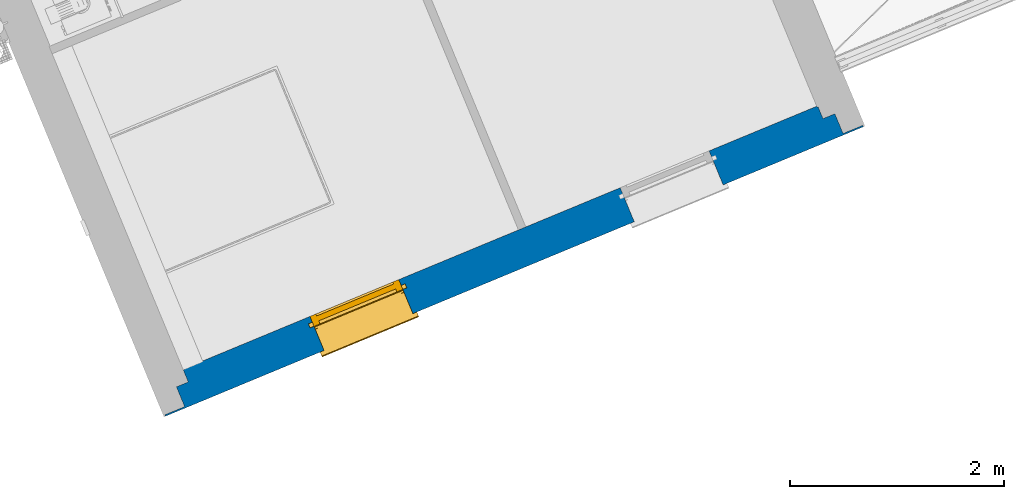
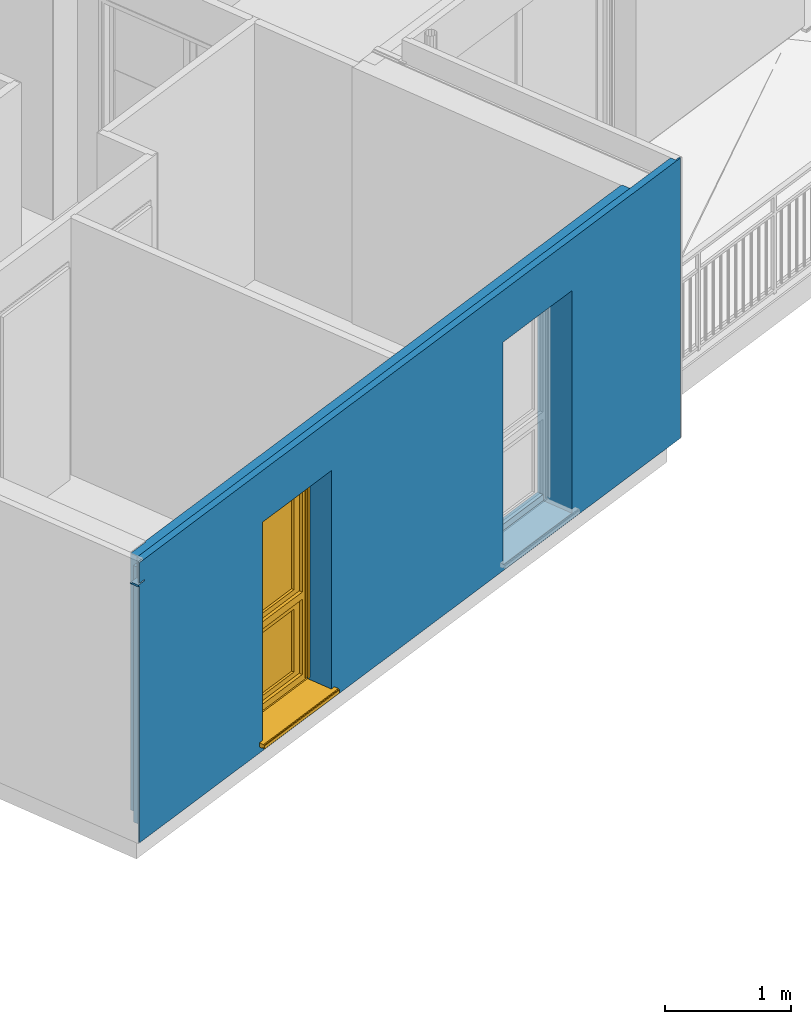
# One storey, part 10 of 91: 1 wall, 1 window, 2 openings.
"""IFC2X3 building model written with IfcOpenShell, lengths in metres."""

from ifc_helpers import new_model, entity, si_unit, converted_unit, derived_unit, money_unit, direction, frame, origin_with_axes, place, context, subcontext, project, spatial, open_shell, faceted_brep, surface_model, source, transform, mapped, material, material_list, type_object, element, fill, save


model = new_model("IFC2X3")

# Units and contexts
model_context = context("Model", 3, precision=1e-05, world=origin_with_axes(), true_north=direction((0.0, 1.0)))
body_context = subcontext(model_context, "Body", "Model", "MODEL_VIEW")
ifc_project = project(units=[si_unit("LENGTHUNIT", "METRE"), si_unit("AREAUNIT", "SQUARE_METRE"), si_unit("VOLUMEUNIT", "CUBIC_METRE"), converted_unit("PLANEANGLEUNIT", "DEGREE", entity("IfcPlaneAngleMeasure", 0.0174532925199), si_unit("PLANEANGLEUNIT", "RADIAN"), dimensions=[0, 0, 0, 0, 0, 0, 0]), si_unit("SOLIDANGLEUNIT", "STERADIAN"), money_unit("EUR"), converted_unit("TIMEUNIT", "Year", entity("IfcTimeMeasure", 31556926.0), si_unit("TIMEUNIT", "SECOND"), dimensions=[0, 0, 1, 0, 0, 0, 0]), si_unit("MASSUNIT", "GRAM", prefix="KILO"), si_unit("THERMODYNAMICTEMPERATUREUNIT", "DEGREE_CELSIUS"), si_unit("LUMINOUSINTENSITYUNIT", "LUMEN"), si_unit("ENERGYUNIT", "JOULE", prefix="MEGA"), derived_unit("THERMALCONDUCTANCEUNIT", [(si_unit("POWERUNIT", "WATT"), 1), (si_unit("LENGTHUNIT", "METRE"), -1), (si_unit("THERMODYNAMICTEMPERATUREUNIT", "KELVIN"), -1)]), derived_unit("SPECIFICHEATCAPACITYUNIT", [(si_unit("ENERGYUNIT", "JOULE"), 1), (si_unit("MASSUNIT", "GRAM", prefix="KILO"), -1), (si_unit("THERMODYNAMICTEMPERATUREUNIT", "KELVIN"), -1)]), derived_unit("MASSDENSITYUNIT", [(si_unit("MASSUNIT", "GRAM", prefix="KILO"), 1), (si_unit("VOLUMEUNIT", "CUBIC_METRE"), -1)])], contexts=[model_context])

# Site, building, storey
site_placement = place(None, origin_with_axes())
site = spatial("IfcSite", under=ifc_project, at=site_placement, Name="Site", CompositionType="ELEMENT")
building_placement = place(site_placement, origin_with_axes())
building = spatial("IfcBuilding", under=site, at=building_placement, Name="Bâtiment", CompositionType="ELEMENT")
storey_placement = place(building_placement, frame((0.0, 0.0, 5.44), z_axis=(0.0, 0.0, 1.0), x_axis=(1.0, 0.0, 0.0)))
storey = spatial("IfcBuildingStorey", under=building, at=storey_placement, Name="R+2", CompositionType="ELEMENT", Elevation=5.44)

# Wall, openings, window
ifc_material_1 = material(Name="Finition int - Plaque de plâtre")
ifc_material_2 = material(Name="Isolation - Polystyrène extrudé")
ifc_material_3 = material(Name="Bloc ELITHERM")
ifc_material_4 = material(Name="Mortier")
ifc_material_5 = material(Name="Béton cellulaire")
ifc_material_6 = material(Name="Finition ext - Crépis")
ifc_material_list = material_list([ifc_material_1, ifc_material_2, ifc_material_3, ifc_material_4, ifc_material_5, ifc_material_6])
wall_type = type_object("IfcWallType", Name="Mur ALKERN + planelle 23 345 x 2720", PredefinedType="USERDEFINED")
wall_placement = place(storey_placement, frame((-20.1547284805, -28.2349360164, 0.0), z_axis=(0.0, 0.0, 1.0), x_axis=(0.923701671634, 0.383112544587, 0.0)))
wall = element("IfcWall", 1, at=wall_placement, inside=storey, type_object=wall_type, material=ifc_material_list, Name="Mue bloc ALKERN isolé", ObjectType="SOLIDWALL", context=body_context, shape_type="Brep", body=[
    faceted_brep([(0.53500001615, 0.335000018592, 2.3), (0.344999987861, 0.335000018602, 2.3), (0.344999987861, 0.334999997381, 0.0), (6.75719491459, 0.334999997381, 0.0), (6.75719491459, 0.334999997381, 2.49000000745), (0.53500001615, 0.335000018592, 2.49000000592), (1.6219994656, 0.335000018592, 2.22), (1.6219994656, 0.334999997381, 2.4), (2.5219994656, 0.334999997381, 2.4), (2.5219994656, 0.335000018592, 2.22), (2.5219994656, 0.335000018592, 0.12), (1.6219994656, 0.335000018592, 0.12), (4.76579728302, 0.335000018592, 2.22), (4.76579728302, 0.334999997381, 2.4), (5.66579728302, 0.334999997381, 2.4), (5.66579728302, 0.335000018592, 2.22), (5.66579728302, 0.335000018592, 0.12), (4.76579728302, 0.335000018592, 0.12), (0.535000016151, 0.344999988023, 2.3), (0.344999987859, 0.344999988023, 2.3), (0.344999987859, 0.344999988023, 0.0), (6.75719491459, 0.344999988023, 0.0), (6.75719491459, 0.344999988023, 2.49000000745), (0.535000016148, 0.344999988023, 2.49000000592), (1.6219994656, 0.344999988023, 2.22), (1.6219994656, 0.344999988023, 2.4), (1.6219994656, 0.344999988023, 0.12), (2.5219994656, 0.344999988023, 2.4), (2.5219994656, 0.344999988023, 2.22), (2.5219994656, 0.344999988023, 0.12), (4.76579728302, 0.344999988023, 2.22), (4.76579728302, 0.344999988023, 2.4), (4.76579728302, 0.344999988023, 0.12), (5.66579728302, 0.344999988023, 2.4), (5.66579728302, 0.344999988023, 2.22), (5.66579728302, 0.344999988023, 0.12)], [[[0, 1, 2, 3, 4, 5], [6, 7, 8, 9, 10, 11], [12, 13, 14, 15, 16, 17]], [[1, 0, 18, 19]], [[1, 19, 20, 2]], [[3, 2, 20, 21]], [[21, 22, 4, 3]], [[23, 5, 4, 22]], [[0, 5, 23, 18]], [[24, 25, 7, 6, 11, 26]], [[25, 27, 8, 7]], [[9, 8, 27, 28, 29, 10]], [[26, 11, 10, 29]], [[30, 31, 13, 12, 17, 32]], [[14, 13, 31, 33]], [[15, 14, 33, 34, 35, 16]], [[16, 35, 32, 17]], [[18, 23, 22, 21, 20, 19], [25, 24, 26, 29, 28, 27], [31, 30, 32, 35, 34, 33]]]),
    faceted_brep([(5.66579728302, 0.286, 0.12), (5.66579728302, 0.286, 0.06), (5.66579728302, 0.214999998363, 0.06), (5.66579728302, 0.214999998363, 0.12), (5.66579728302, 0.215, 2.22), (5.66579728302, 0.215, 2.4), (5.66579728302, 0.334999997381, 2.4), (5.66579728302, 0.334999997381, 2.22), (5.66579728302, 0.334999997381, 0.12), (4.76579728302, 0.286, 0.12), (4.76579728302, 0.286, 0.06), (4.76579728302, 0.214999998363, 0.06), (6.76719490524, 0.214999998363, 2.49000000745), (0.335000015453, 0.214999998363, 2.49), (0.335000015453, 0.214999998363, 0.0), (6.76719490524, 0.214999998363, 0.0), (2.5219994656, 0.215, 2.4), (2.5219994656, 0.215, 2.22), (2.5219994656, 0.214999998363, 0.12), (2.5219994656, 0.214999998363, 0.06), (1.6219994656, 0.214999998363, 0.06), (1.6219994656, 0.214999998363, 0.12), (1.6219994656, 0.215, 2.22), (1.6219994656, 0.215, 2.4), (4.76579728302, 0.214999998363, 0.12), (4.76579728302, 0.215, 2.22), (4.76579728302, 0.215, 2.4), (4.76579728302, 0.334999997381, 2.4), (6.76719490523, 0.334999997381, 0.0), (0.335000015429, 0.334999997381, 0.0), (0.335000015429, 0.334999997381, 2.49), (6.76719490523, 0.334999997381, 2.49000000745), (2.5219994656, 0.334999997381, 0.12), (2.5219994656, 0.334999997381, 2.22), (2.5219994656, 0.334999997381, 2.4), (1.6219994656, 0.334999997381, 2.4), (1.6219994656, 0.334999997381, 2.22), (1.6219994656, 0.334999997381, 0.12), (4.76579728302, 0.334999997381, 2.22), (4.76579728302, 0.334999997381, 0.12), (2.5219994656, 0.286, 0.12), (2.5219994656, 0.286, 0.06), (1.6219994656, 0.286, 0.06), (1.6219994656, 0.286, 0.12)], [[[0, 1, 2, 3, 4, 5, 6, 7, 8]], [[0, 9, 10, 1]], [[11, 2, 1, 10]], [[12, 13, 14, 15], [16, 17, 18, 19, 20, 21, 22, 23], [11, 24, 25, 26, 5, 4, 3, 2]], [[26, 27, 6, 5]], [[28, 29, 30, 31], [32, 33, 34, 35, 36, 37], [8, 7, 6, 27, 38, 39]], [[9, 0, 8, 39]], [[24, 11, 10, 9, 39, 38, 27, 26, 25]], [[31, 30, 13, 12]], [[29, 14, 13, 30]], [[15, 14, 29, 28]], [[28, 31, 12, 15]], [[34, 33, 32, 40, 41, 19, 18, 17, 16]], [[20, 19, 41, 42]], [[35, 23, 22, 21, 20, 42, 43, 37, 36]], [[23, 35, 34, 16]], [[43, 40, 32, 37]], [[40, 43, 42, 41]]]),
    faceted_brep([(5.66579728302, 0.215, 0.12), (5.66579728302, 0.215, 0.06), (5.66579728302, 0.015, 0.06), (5.66579728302, 0.015, 0.12), (5.66579728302, 0.015, 2.22), (5.66579728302, 0.215, 2.22), (0.214999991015, 0.215, 0.0), (0.214999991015, 0.215, 2.49), (6.88719490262, 0.215, 2.49000000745), (6.88719490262, 0.215, 0.0), (2.5219994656, 0.215, 0.06), (2.5219994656, 0.215, 0.12), (2.5219994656, 0.215, 2.22), (1.6219994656, 0.215, 2.22), (1.6219994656, 0.215, 0.12), (1.6219994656, 0.215, 0.06), (4.76579728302, 0.215, 2.22), (4.76579728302, 0.215, 0.12), (4.76579728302, 0.215, 0.06), (4.76579728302, 0.015, 0.06), (0.214999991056, 0.015, 2.49), (0.214999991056, 0.015, 0.0), (6.88719490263, 0.015, 0.0), (6.88719490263, 0.015, 2.49000000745), (1.6219994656, 0.015, 0.06), (1.6219994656, 0.015, 0.12), (1.6219994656, 0.015, 2.22), (2.5219994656, 0.015, 2.22), (2.5219994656, 0.015, 0.12), (2.5219994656, 0.015, 0.06), (4.76579728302, 0.015, 0.12), (4.76579728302, 0.015, 2.22), (0.214999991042, 0.0829999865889, 2.49), (6.88719490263, 0.0829999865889, 2.49000000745)], [[[0, 1, 2, 3, 4, 5]], [[6, 7, 8, 9], [10, 11, 12, 13, 14, 15], [1, 0, 5, 16, 17, 18]], [[19, 2, 1, 18]], [[20, 21, 22, 23], [24, 25, 26, 27, 28, 29], [19, 30, 31, 4, 3, 2]], [[31, 16, 5, 4]], [[7, 6, 21, 20, 32]], [[7, 32, 33, 8]], [[9, 8, 33, 23, 22]], [[21, 6, 9, 22]], [[11, 10, 29, 28, 27, 12]], [[12, 27, 26, 13]], [[25, 24, 15, 14, 13, 26]], [[10, 15, 24, 29]], [[30, 19, 18, 17, 16, 31]], [[32, 20, 23, 33]]]),
    faceted_brep([(7.01919490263, 0.015, 2.49), (7.01919490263, 0.015, 2.5), (1.60902011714e-08, 0.015, 2.5), (1.60902011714e-08, 0.015, 2.49), (7.01919490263, 0.083, 2.5), (7.01919490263, 0.083, 2.49), (1.60762709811e-08, 0.083, 2.5), (1.60762709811e-08, 0.083, 2.49)], [[[0, 1, 2, 3]], [[4, 1, 0, 5]], [[1, 4, 6, 2]], [[7, 3, 2, 6]], [[5, 0, 3, 7]], [[4, 5, 7, 6]]]),
    faceted_brep([(0.0630000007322, 0.0630000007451, 2.72), (0.063000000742, 0.015, 2.72), (7.03919490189, 0.015, 2.72), (7.03919490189, 0.0630000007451, 2.72), (0.063000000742, 0.015, 2.5200000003), (0.0630000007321, 0.0630000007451, 2.5200000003), (0.0829999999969, 0.015, 2.52), (0.0829999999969, 0.015, 2.51), (0.0149999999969, 0.015, 2.51), (0.0, 0.015, 2.50999999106), (1.60902011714e-08, 0.015, 2.5000000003), (7.03919490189, 0.015, 2.5000000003), (7.03919490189, 0.0630000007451, 2.5000000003), (1.608036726e-08, 0.0630000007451, 2.5000000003), (0.0, 0.0630000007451, 2.50999999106), (0.0149999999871, 0.0630000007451, 2.51), (0.0829999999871, 0.0630000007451, 2.51), (0.0829999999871, 0.0630000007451, 2.52)], [[[0, 1, 2, 3]], [[4, 1, 0, 5]], [[1, 4, 6, 7, 8, 9, 10, 11, 2]], [[3, 2, 11, 12]], [[5, 0, 3, 12, 13, 14, 15, 16, 17]], [[4, 5, 17, 6]], [[7, 6, 17, 16]], [[8, 7, 16, 15]], [[8, 15, 14, 9]], [[9, 14, 13, 10]], [[12, 11, 10, 13]]]),
    faceted_brep([(5.66579728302, 0.0149999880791, 0.12), (5.66579728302, 1.19209389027e-08, 0.12), (5.66579728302, 1.19209389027e-08, 2.22), (5.66579728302, 0.0149999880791, 2.22), (5.66579728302, 1.19209389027e-08, 0.06), (5.66579728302, 0.0149999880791, 0.06), (0.0150000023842, 1.19209389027e-08, 0.0), (7.08719491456, 0.0, 0.0), (7.08719491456, 0.0, 2.72), (0.0150000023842, 1.19209389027e-08, 2.72), (0.0150000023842, 1.19209389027e-08, 2.52), (0.083, 1.19209389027e-08, 2.52), (0.083, 1.19209389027e-08, 2.51), (0.0, 1.19209389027e-08, 2.50999999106), (0.0, 1.19209389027e-08, 2.49), (0.0150000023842, 1.19209389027e-08, 2.49), (1.6219994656, 1.19209389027e-08, 0.06), (1.6219994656, 0.0, 0.12), (1.6219994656, 0.0, 2.22), (2.5219994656, 0.0, 2.22), (2.5219994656, 0.0, 0.12), (2.5219994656, 1.19209389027e-08, 0.06), (4.76579728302, 1.19209424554e-08, 0.06), (4.76579728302, 1.19209389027e-08, 0.12), (4.76579728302, 1.19209424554e-08, 2.22), (4.76579728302, 0.0149999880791, 2.22), (0.0, 0.0149999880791, 2.50999999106), (0.0829999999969, 0.0149999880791, 2.51), (0.0829999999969, 0.0149999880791, 2.52), (0.0150000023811, 0.0149999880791, 2.52), (0.0150000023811, 0.0149999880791, 2.72), (7.08719491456, 0.0149999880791, 2.72), (7.08719491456, 0.0149999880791, 0.0), (0.0150000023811, 0.0149999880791, 0.0), (0.0150000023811, 0.0149999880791, 2.49), (0.0, 0.0149999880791, 2.49), (2.5219994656, 0.0149999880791, 0.06), (2.5219994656, 0.0149999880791, 0.12), (2.5219994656, 0.0149999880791, 2.22), (1.6219994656, 0.0149999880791, 2.22), (1.6219994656, 0.0149999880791, 0.12), (1.6219994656, 0.0149999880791, 0.06), (4.76579728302, 0.0149999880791, 0.12), (4.76579728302, 0.0149999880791, 0.06)], [[[0, 1, 2, 3]], [[4, 1, 0, 5]], [[6, 7, 8, 9, 10, 11, 12, 13, 14, 15], [16, 17, 18, 19, 20, 21], [22, 23, 24, 2, 1, 4]], [[24, 25, 3, 2]], [[26, 27, 28, 29, 30, 31, 32, 33, 34, 35], [36, 37, 38, 39, 40, 41], [5, 0, 3, 25, 42, 43]], [[22, 4, 5, 43]], [[7, 6, 33, 32]], [[32, 31, 8, 7]], [[31, 30, 9, 8]], [[29, 10, 9, 30]], [[11, 10, 29, 28]], [[27, 12, 11, 28]], [[13, 12, 27, 26]], [[14, 13, 26, 35]], [[34, 15, 14, 35]], [[33, 6, 15, 34]], [[16, 41, 40, 17]], [[39, 18, 17, 40]], [[38, 19, 18, 39]], [[19, 38, 37, 20]], [[37, 36, 21, 20]], [[36, 41, 16, 21]], [[42, 23, 22, 43]], [[23, 42, 25, 24]]]),
])
opening_1_placement = place(wall_placement, frame((2.0719994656, 0.0, 0.12), z_axis=(0.0, 0.0, 1.0), x_axis=(1.0, 0.0, 0.0)))
opening_1 = element("IfcOpeningElement", 2, at=opening_1_placement, cuts=wall, Name="MEN 90", context=body_context, shape_type="Brep", body=[
    faceted_brep([(-0.45, 0.834999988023, 0.0), (0.45, 0.834999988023, 0.0), (0.45, 0.245, 0.0), (-0.45, 0.245, 0.0), (-0.45, 0.834999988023, 2.1), (0.45, 0.834999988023, 2.1), (0.45, 0.245, 2.1), (-0.45, 0.245, 2.1)], [[[0, 1, 2, 3]], [[0, 4, 5, 1]], [[1, 5, 6, 2]], [[3, 2, 6, 7]], [[4, 0, 3, 7]], [[5, 4, 7, 6]]]),
    faceted_brep([(-0.45, -0.344999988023, 0.0), (-0.45, -0.344999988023, 2.1), (-0.45, 0.245, 2.1), (-0.45, 0.245, 0.0), (0.45, -0.344999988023, 0.0), (0.45, -0.344999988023, 2.1), (0.45, 0.245, 2.1), (0.45, 0.245, 0.0)], [[[0, 1, 2, 3]], [[0, 4, 5, 1]], [[1, 5, 6, 2]], [[3, 2, 6, 7]], [[4, 0, 3, 7]], [[5, 4, 7, 6]]]),
    faceted_brep([(-0.45, -0.344999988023, 0.0), (-0.45, -0.344999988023, 2.1), (-0.45, 0.245, 2.1), (-0.45, 0.245, 0.0), (0.45, -0.344999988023, 0.0), (0.45, -0.344999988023, 2.1), (0.45, 0.245, 2.1), (0.45, 0.245, 0.0)], [[[0, 1, 2, 3]], [[0, 4, 5, 1]], [[1, 5, 6, 2]], [[3, 2, 6, 7]], [[4, 0, 3, 7]], [[5, 4, 7, 6]]]),
    faceted_brep([(-0.45, 0.804999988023, 2.1), (0.45, 0.804999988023, 2.1), (0.45, 0.215, 2.1), (-0.45, 0.215, 2.1), (-0.45, 0.804999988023, 2.28), (0.45, 0.804999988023, 2.28), (0.45, 0.215, 2.28), (-0.45, 0.215, 2.28)], [[[0, 1, 2, 3]], [[0, 4, 5, 1]], [[1, 5, 6, 2]], [[3, 2, 6, 7]], [[4, 0, 3, 7]], [[5, 4, 7, 6]]]),
    faceted_brep([(-0.45, -0.303999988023, 0.0), (0.45, -0.303999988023, 0.0), (0.45, 0.286, 0.0), (-0.45, 0.286, 0.0), (-0.45, -0.303999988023, -0.06), (0.45, -0.303999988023, -0.06), (0.45, 0.286, -0.06), (-0.45, 0.286, -0.06)], [[[0, 1, 2, 3]], [[0, 4, 5, 1]], [[1, 5, 6, 2]], [[3, 2, 6, 7]], [[4, 0, 3, 7]], [[5, 4, 7, 6]]]),
])
opening_2_placement = place(wall_placement, frame((5.21579728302, 0.0, 0.12), z_axis=(0.0, 0.0, 1.0), x_axis=(1.0, 0.0, 0.0)))
element("IfcOpeningElement", 3, at=opening_2_placement, cuts=wall, Name="MEN 91", context=body_context, shape_type="Brep", body=[
    faceted_brep([(0.45, 0.245, 0.0), (-0.45, 0.245, 0.0), (-0.45, 0.834999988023, 0.0), (0.45, 0.834999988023, 0.0), (0.45, 0.245, 2.1), (-0.45, 0.245, 2.1), (-0.45, 0.834999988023, 2.1), (0.45, 0.834999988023, 2.1)], [[[0, 1, 2, 3]], [[0, 4, 5, 1]], [[1, 5, 6, 2]], [[3, 2, 6, 7]], [[4, 0, 3, 7]], [[5, 4, 7, 6]]]),
    faceted_brep([(0.45, 0.245, 0.0), (0.45, 0.245, 2.1), (0.45, -0.344999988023, 2.1), (0.45, -0.344999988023, 0.0), (-0.45, 0.245, 0.0), (-0.45, 0.245, 2.1), (-0.45, -0.344999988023, 2.1), (-0.45, -0.344999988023, 0.0)], [[[0, 1, 2, 3]], [[0, 4, 5, 1]], [[1, 5, 6, 2]], [[3, 2, 6, 7]], [[4, 0, 3, 7]], [[5, 4, 7, 6]]]),
    faceted_brep([(0.45, 0.245, 0.0), (0.45, 0.245, 2.1), (0.45, -0.344999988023, 2.1), (0.45, -0.344999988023, 0.0), (-0.45, 0.245, 0.0), (-0.45, 0.245, 2.1), (-0.45, -0.344999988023, 2.1), (-0.45, -0.344999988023, 0.0)], [[[0, 1, 2, 3]], [[0, 4, 5, 1]], [[1, 5, 6, 2]], [[3, 2, 6, 7]], [[4, 0, 3, 7]], [[5, 4, 7, 6]]]),
    faceted_brep([(0.45, 0.215, 2.1), (-0.45, 0.215, 2.1), (-0.45, 0.804999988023, 2.1), (0.45, 0.804999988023, 2.1), (0.45, 0.215, 2.28), (-0.45, 0.215, 2.28), (-0.45, 0.804999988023, 2.28), (0.45, 0.804999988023, 2.28)], [[[0, 1, 2, 3]], [[0, 4, 5, 1]], [[1, 5, 6, 2]], [[3, 2, 6, 7]], [[4, 0, 3, 7]], [[5, 4, 7, 6]]]),
    faceted_brep([(0.45, 0.286, 0.0), (-0.45, 0.286, 0.0), (-0.45, -0.303999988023, 0.0), (0.45, -0.303999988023, 0.0), (0.45, 0.286, -0.06), (-0.45, 0.286, -0.06), (-0.45, -0.303999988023, -0.06), (0.45, -0.303999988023, -0.06)], [[[0, 1, 2, 3]], [[0, 4, 5, 1]], [[1, 5, 6, 2]], [[3, 2, 6, 7]], [[4, 0, 3, 7]], [[5, 4, 7, 6]]]),
])
window_style = type_object("IfcWindowStyle", Name="Baie générique 2017 v2", ConstructionType="NOTDEFINED", OperationType="NOTDEFINED", ParameterTakesPrecedence=False, Sizeable=False)
shared_shape = source(origin_with_axes(), body_context, "Body", "SurfaceModel", [
    faceted_brep([(-0.45, 0.0, 2.1), (-0.45, 0.0, 0.0), (0.45, 0.0, 0.0), (0.45, 0.0, 2.1), (0.39, 0.0, 0.85), (-0.39, 0.0, 0.85), (-0.39, 0.0, 2.05), (0.39, 0.0, 2.05), (0.39, 0.0, 0.78), (0.39, 0.0, 0.05), (-0.39, 0.0, 0.05), (-0.39, 0.0, 0.78), (-0.45, 0.1, 2.1), (-0.45, 0.1, 0.0), (0.45, 0.1, 0.0), (0.45, 0.1, 2.1), (0.39, 0.1, 0.85), (-0.39, 0.1, 0.85), (-0.39, 0.1, 2.05), (0.39, 0.1, 2.05), (0.39, 0.1, 0.78), (0.39, 0.1, 0.05), (-0.39, 0.1, 0.05), (-0.39, 0.1, 0.78)], [[[0, 1, 2, 3], [4, 5, 6, 7], [8, 9, 10, 11]], [[0, 12, 13, 1]], [[1, 13, 14, 2]], [[2, 14, 15, 3]], [[3, 15, 12, 0]], [[4, 16, 17, 5]], [[5, 17, 18, 6]], [[6, 18, 19, 7]], [[16, 4, 7, 19]], [[8, 20, 21, 9]], [[9, 21, 22, 10]], [[23, 11, 10, 22]], [[20, 8, 11, 23]], [[14, 13, 12, 15], [16, 19, 18, 17], [20, 23, 22, 21]]]),
    faceted_brep([(0.39, 0.08, 2.05), (0.39, 0.08, 0.85), (-0.39, 0.08, 0.85), (-0.39, 0.08, 2.05), (0.32, 0.08, 1.98), (-0.32, 0.08, 1.98), (-0.32, 0.08, 0.9), (0.32, 0.08, 0.9), (0.39, 0.03, 2.05), (0.39, 0.03, 0.85), (-0.39, 0.03, 0.85), (-0.39, 0.03, 2.05), (0.32, 0.03, 1.98), (-0.32, 0.03, 1.98), (-0.32, 0.03, 0.9), (0.32, 0.03, 0.9)], [[[0, 1, 2, 3], [4, 5, 6, 7]], [[1, 0, 8, 9]], [[10, 2, 1, 9]], [[11, 3, 2, 10]], [[0, 3, 11, 8]], [[5, 4, 12, 13]], [[14, 6, 5, 13]], [[15, 7, 6, 14]], [[4, 7, 15, 12]], [[11, 10, 9, 8], [15, 14, 13, 12]]]),
    surface_model("IfcShellBasedSurfaceModel", [(-0.39, 0.08, 0.85), (-0.39, 0.055, 0.85), (-0.39, 0.055, 2.05), (-0.39, 0.08, 2.05)], [open_shell([[[0, 1, 2, 3]]])]),
    surface_model("IfcShellBasedSurfaceModel", [(0.39, 0.08, 0.85), (0.39, 0.055, 0.85), (0.39, 0.055, 2.05), (0.39, 0.08, 2.05)], [open_shell([[[0, 1, 2, 3]]])]),
    surface_model("IfcShellBasedSurfaceModel", [(-0.39, 0.08, 0.85), (-0.39, 0.055, 0.85), (0.39, 0.055, 0.85), (0.39, 0.08, 0.85)], [open_shell([[[0, 1, 2, 3]]])]),
    surface_model("IfcShellBasedSurfaceModel", [(-0.39, 0.08, 2.05), (-0.39, 0.055, 2.05), (0.39, 0.055, 2.05), (0.39, 0.08, 2.05)], [open_shell([[[0, 1, 2, 3]]])]),
    surface_model("IfcShellBasedSurfaceModel", [(-0.39, 0.055, 0.85), (-0.39, 0.03, 0.85), (-0.39, 0.03, 2.05), (-0.39, 0.055, 2.05)], [open_shell([[[0, 1, 2, 3]]])]),
    surface_model("IfcShellBasedSurfaceModel", [(0.39, 0.055, 0.85), (0.39, 0.03, 0.85), (0.39, 0.03, 2.05), (0.39, 0.055, 2.05)], [open_shell([[[0, 1, 2, 3]]])]),
    surface_model("IfcShellBasedSurfaceModel", [(-0.39, 0.055, 0.85), (-0.39, 0.03, 0.85), (0.39, 0.03, 0.85), (0.39, 0.055, 0.85)], [open_shell([[[0, 1, 2, 3]]])]),
    surface_model("IfcShellBasedSurfaceModel", [(-0.39, 0.055, 2.05), (-0.39, 0.03, 2.05), (0.39, 0.03, 2.05), (0.39, 0.055, 2.05)], [open_shell([[[0, 1, 2, 3]]])]),
    faceted_brep([(-0.32, 0.0575, 0.9), (0.32, 0.0575, 0.9), (0.32, 0.0525, 0.9), (-0.32, 0.0525, 0.9), (-0.32, 0.0575, 1.98), (0.32, 0.0575, 1.98), (0.32, 0.0525, 1.98), (-0.32, 0.0525, 1.98)], [[[0, 1, 2, 3]], [[0, 4, 5, 1]], [[1, 5, 6, 2]], [[3, 2, 6, 7]], [[4, 0, 3, 7]], [[5, 4, 7, 6]]]),
    faceted_brep([(0.39, 0.08, 0.78), (0.39, 0.08, 0.05), (-0.39, 0.08, 0.05), (-0.39, 0.08, 0.78), (0.32, 0.08, 0.71), (-0.32, 0.08, 0.71), (-0.32, 0.08, 0.1), (0.32, 0.08, 0.1), (0.39, 0.03, 0.78), (0.39, 0.03, 0.05), (-0.39, 0.03, 0.05), (-0.39, 0.03, 0.78), (0.32, 0.03, 0.71), (-0.32, 0.03, 0.71), (-0.32, 0.03, 0.1), (0.32, 0.03, 0.1)], [[[0, 1, 2, 3], [4, 5, 6, 7]], [[1, 0, 8, 9]], [[10, 2, 1, 9]], [[11, 3, 2, 10]], [[0, 3, 11, 8]], [[5, 4, 12, 13]], [[14, 6, 5, 13]], [[15, 7, 6, 14]], [[4, 7, 15, 12]], [[11, 10, 9, 8], [15, 14, 13, 12]]]),
    surface_model("IfcShellBasedSurfaceModel", [(-0.39, 0.08, 0.05), (-0.39, 0.055, 0.05), (-0.39, 0.055, 0.78), (-0.39, 0.08, 0.78)], [open_shell([[[0, 1, 2, 3]]])]),
    surface_model("IfcShellBasedSurfaceModel", [(0.39, 0.08, 0.05), (0.39, 0.055, 0.05), (0.39, 0.055, 0.78), (0.39, 0.08, 0.78)], [open_shell([[[0, 1, 2, 3]]])]),
    surface_model("IfcShellBasedSurfaceModel", [(-0.39, 0.08, 0.05), (-0.39, 0.055, 0.05), (0.39, 0.055, 0.05), (0.39, 0.08, 0.05)], [open_shell([[[0, 1, 2, 3]]])]),
    surface_model("IfcShellBasedSurfaceModel", [(-0.39, 0.08, 0.78), (-0.39, 0.055, 0.78), (0.39, 0.055, 0.78), (0.39, 0.08, 0.78)], [open_shell([[[0, 1, 2, 3]]])]),
    surface_model("IfcShellBasedSurfaceModel", [(-0.39, 0.055, 0.05), (-0.39, 0.03, 0.05), (-0.39, 0.03, 0.78), (-0.39, 0.055, 0.78)], [open_shell([[[0, 1, 2, 3]]])]),
    surface_model("IfcShellBasedSurfaceModel", [(0.39, 0.055, 0.05), (0.39, 0.03, 0.05), (0.39, 0.03, 0.78), (0.39, 0.055, 0.78)], [open_shell([[[0, 1, 2, 3]]])]),
    surface_model("IfcShellBasedSurfaceModel", [(-0.39, 0.055, 0.05), (-0.39, 0.03, 0.05), (0.39, 0.03, 0.05), (0.39, 0.055, 0.05)], [open_shell([[[0, 1, 2, 3]]])]),
    surface_model("IfcShellBasedSurfaceModel", [(-0.39, 0.055, 0.78), (-0.39, 0.03, 0.78), (0.39, 0.03, 0.78), (0.39, 0.055, 0.78)], [open_shell([[[0, 1, 2, 3]]])]),
    faceted_brep([(-0.32, 0.0575, 0.1), (0.32, 0.0575, 0.1), (0.32, 0.0525, 0.1), (-0.32, 0.0525, 0.1), (-0.32, 0.0575, 0.71), (0.32, 0.0575, 0.71), (0.32, 0.0525, 0.71), (-0.32, 0.0525, 0.71)], [[[0, 1, 2, 3]], [[0, 4, 5, 1]], [[1, 5, 6, 2]], [[3, 2, 6, 7]], [[4, 0, 3, 7]], [[5, 4, 7, 6]]]),
    faceted_brep([(-0.45, -0.03, 0.0), (-0.425, -0.03, 0.0), (-0.425, -0.03, 2.1), (-0.45, -0.03, 2.1), (-0.45, -0.002, 0.0), (-0.425, -0.002, 0.0), (-0.425, -0.004, 0.0), (-0.448, -0.004, 0.0), (-0.448, -0.028, 0.0), (-0.425, -0.028, 0.0), (-0.425, -0.028, 2.1), (-0.448, -0.028, 2.1), (-0.448, -0.004, 2.1), (-0.425, -0.004, 2.1), (-0.425, -0.002, 2.1), (-0.45, -0.002, 2.1)], [[[0, 1, 2, 3]], [[0, 4, 5, 6, 7, 8, 9, 1]], [[1, 9, 10, 2]], [[3, 2, 10, 11, 12, 13, 14, 15]], [[4, 0, 3, 15]], [[5, 4, 15, 14]], [[6, 5, 14, 13]], [[7, 6, 13, 12]], [[8, 7, 12, 11]], [[9, 8, 11, 10]]]),
    faceted_brep([(0.45, -0.03, 0.0), (0.45, -0.03, 2.1), (0.425, -0.03, 2.1), (0.425, -0.03, 0.0), (0.45, -0.002, 0.0), (0.45, -0.002, 2.1), (0.425, -0.002, 2.1), (0.425, -0.004, 2.1), (0.448, -0.004, 2.1), (0.448, -0.028, 2.1), (0.425, -0.028, 2.1), (0.425, -0.028, 0.0), (0.448, -0.028, 0.0), (0.448, -0.004, 0.0), (0.425, -0.004, 0.0), (0.425, -0.002, 0.0)], [[[0, 1, 2, 3]], [[4, 5, 1, 0]], [[1, 5, 6, 7, 8, 9, 10, 2]], [[3, 2, 10, 11]], [[0, 3, 11, 12, 13, 14, 15, 4]], [[15, 6, 5, 4]], [[14, 7, 6, 15]], [[13, 8, 7, 14]], [[12, 9, 8, 13]], [[11, 10, 9, 12]]]),
    faceted_brep([(0.448, -0.028, 2.1), (-0.448, -0.028, 2.1), (-0.448, -0.028, 2.278), (0.448, -0.028, 2.278), (0.448, -0.03, 2.1), (-0.448, -0.03, 2.1), (-0.448, -0.03, 2.28), (-0.448, 0.17, 2.28), (-0.448, 0.17, 2.1), (-0.448, 0.168, 2.1), (-0.448, 0.168, 2.278), (0.448, 0.168, 2.278), (0.448, 0.168, 2.1), (0.448, 0.17, 2.1), (0.448, 0.17, 2.28), (0.448, -0.03, 2.28)], [[[0, 1, 2, 3]], [[4, 5, 1, 0]], [[1, 5, 6, 7, 8, 9, 10, 2]], [[3, 2, 10, 11]], [[0, 3, 11, 12, 13, 14, 15, 4]], [[15, 6, 5, 4]], [[14, 7, 6, 15]], [[13, 8, 7, 14]], [[12, 9, 8, 13]], [[11, 10, 9, 12]]]),
    faceted_brep([(0.448, 0.0724697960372, 2.17436337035), (0.448, 0.08, 2.19), (0.448, 0.0724697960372, 2.20563662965), (0.448, 0.0555495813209, 2.20949855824), (0.448, 0.041980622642, 2.19867767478), (0.448, 0.041980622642, 2.18132232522), (0.448, 0.0555495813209, 2.17050144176), (-0.448, 0.0724697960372, 2.17436337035), (-0.448, 0.08, 2.19), (-0.448, 0.0724697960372, 2.20563662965), (-0.448, 0.0555495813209, 2.20949855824), (-0.448, 0.041980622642, 2.19867767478), (-0.448, 0.041980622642, 2.18132232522), (-0.448, 0.0555495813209, 2.17050144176)], [[[0, 1, 2, 3, 4, 5, 6]], [[0, 7, 8, 1]], [[1, 8, 9, 2]], [[2, 9, 10, 3]], [[3, 10, 11, 4]], [[4, 11, 12, 5]], [[5, 12, 13, 6]], [[6, 13, 7, 0]], [[7, 13, 12, 11, 10, 9, 8]]]),
    faceted_brep([(0.438, 0.130275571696, 2.15615706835), (0.438, 0.138, 2.19), (0.438, 0.130275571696, 2.22384293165), (0.438, 0.108632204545, 2.25098285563), (0.438, 0.0773566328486, 2.26604437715), (0.438, 0.0426433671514, 2.26604437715), (0.438, 0.011367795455, 2.25098285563), (0.438, -0.0102755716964, 2.22384293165), (0.438, -0.018, 2.19), (0.438, -0.0102755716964, 2.15615706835), (0.438, 0.011367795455, 2.12901714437), (0.438, 0.0426433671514, 2.11395562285), (0.438, 0.0773566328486, 2.11395562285), (0.438, 0.108632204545, 2.12901714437), (-0.438, 0.130275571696, 2.15615706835), (-0.438, 0.138, 2.19), (-0.438, 0.130275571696, 2.22384293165), (-0.438, 0.108632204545, 2.25098285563), (-0.438, 0.0773566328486, 2.26604437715), (-0.438, 0.0426433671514, 2.26604437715), (-0.438, 0.011367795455, 2.25098285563), (-0.438, -0.0102755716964, 2.22384293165), (-0.438, -0.018, 2.19), (-0.438, -0.0102755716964, 2.15615706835), (-0.438, 0.011367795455, 2.12901714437), (-0.438, 0.0426433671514, 2.11395562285), (-0.438, 0.0773566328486, 2.11395562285), (-0.438, 0.108632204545, 2.12901714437)], [[[0, 1, 2, 3, 4, 5, 6, 7, 8, 9, 10, 11, 12, 13]], [[0, 14, 15, 1]], [[1, 15, 16, 2]], [[2, 16, 17, 3]], [[3, 17, 18, 4]], [[4, 18, 19, 5]], [[5, 19, 20, 6]], [[6, 20, 21, 7]], [[7, 21, 22, 8]], [[8, 22, 23, 9]], [[9, 23, 24, 10]], [[10, 24, 25, 11]], [[11, 25, 26, 12]], [[12, 26, 27, 13]], [[13, 27, 14, 0]], [[14, 27, 26, 25, 24, 23, 22, 21, 20, 19, 18, 17, 16, 15]]]),
    faceted_brep([(0.45, 0.17, 2.1), (0.448, 0.17, 2.1), (0.448, 0.17, 2.28), (0.45, 0.17, 2.28), (0.45, -0.03, 2.1), (0.448, -0.03, 2.1), (0.448, -0.03, 2.28), (0.45, -0.03, 2.28)], [[[0, 1, 2, 3]], [[4, 5, 1, 0]], [[1, 5, 6, 2]], [[3, 2, 6, 7]], [[0, 3, 7, 4]], [[7, 6, 5, 4]]]),
    faceted_brep([(-0.448, 0.17, 2.1), (-0.45, 0.17, 2.1), (-0.45, 0.17, 2.28), (-0.448, 0.17, 2.28), (-0.448, -0.03, 2.1), (-0.45, -0.03, 2.1), (-0.45, -0.03, 2.28), (-0.448, -0.03, 2.28)], [[[0, 1, 2, 3]], [[4, 5, 1, 0]], [[1, 5, 6, 2]], [[3, 2, 6, 7]], [[0, 3, 7, 4]], [[7, 6, 5, 4]]]),
    faceted_brep([(0.448, -0.004, 2.1), (-0.448, -0.004, 2.1), (-0.448, 0.168, 2.1), (0.448, 0.168, 2.1), (0.448, -0.004, 2.102), (-0.448, -0.004, 2.102), (-0.448, 0.168, 2.102), (0.448, 0.168, 2.102)], [[[0, 1, 2, 3]], [[4, 5, 1, 0]], [[1, 5, 6, 2]], [[3, 2, 6, 7]], [[0, 3, 7, 4]], [[7, 6, 5, 4]]]),
    faceted_brep([(-0.438, -0.006, 2.1), (-0.438, -0.006, 2.19), (0.438, -0.006, 2.19), (0.438, -0.006, 2.1), (-0.438, -0.026, 2.1), (-0.438, -0.026, 2.19), (0.438, -0.026, 2.19), (0.438, -0.026, 2.1)], [[[0, 1, 2, 3]], [[1, 0, 4, 5]], [[2, 1, 5, 6]], [[3, 2, 6, 7]], [[4, 0, 3, 7]], [[5, 4, 7, 6]]]),
    faceted_brep([(0.45, -0.00167949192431, -0.01), (0.45, 0.0, -0.00373205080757), (0.49, 0.0, -0.00373205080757), (0.49, 0.001, 0.0), (-0.49, 0.001, 0.0), (-0.49, 0.0, -0.00373205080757), (-0.45, 0.0, -0.00373205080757), (-0.45, -0.00167949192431, -0.01), (0.45, -0.009, -0.0173205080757), (0.45, -0.019, -0.02), (0.45, -0.245, -0.02), (0.45, -0.245, -0.06), (0.45, 0.0, -0.06), (0.49, 0.0, -0.06), (0.49, 0.041, -0.06), (0.49, 0.041, 0.0), (-0.49, 0.041, 0.0), (-0.49, 0.041, -0.06), (-0.49, 0.0, -0.06), (-0.45, 0.0, -0.06), (-0.45, -0.245, -0.02), (-0.45, -0.019, -0.02), (-0.45, -0.009, -0.0173205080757), (-0.45, -0.245, -0.06), (-0.49, -0.245, -0.02), (-0.49, -0.285, -0.02), (0.49, -0.285, -0.02), (0.49, -0.245, -0.02), (0.49, -0.245, -0.06), (0.49, -0.275, -0.06), (-0.49, -0.275, -0.06), (-0.49, -0.245, -0.06), (-0.49, -0.295, -0.03), (-0.49, -0.292071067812, -0.0229289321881), (-0.49, -0.275, -0.05), (-0.49, -0.285, -0.05), (-0.49, -0.285, -0.06), (-0.49, -0.295, -0.06), (0.49, -0.292071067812, -0.0229289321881), (0.49, -0.295, -0.03), (0.49, -0.295, -0.06), (0.49, -0.285, -0.06), (0.49, -0.285, -0.05), (0.49, -0.275, -0.05)], [[[0, 1, 2, 3, 4, 5, 6, 7]], [[1, 0, 8, 9, 10, 11, 12]], [[13, 2, 1, 12]], [[2, 13, 14, 15, 3]], [[16, 4, 3, 15]], [[4, 16, 17, 18, 5]], [[5, 18, 19, 6]], [[20, 21, 22, 7, 6, 19, 23]], [[8, 0, 7, 22]], [[9, 8, 22, 21]], [[10, 9, 21, 20, 24, 25, 26, 27]], [[10, 27, 28, 11]], [[11, 28, 29, 30, 31, 23, 19, 18, 17, 14, 13, 12]], [[17, 16, 15, 14]], [[20, 23, 31, 24]], [[32, 33, 25, 24, 31, 30, 34, 35, 36, 37]], [[25, 33, 38, 26]], [[28, 27, 26, 38, 39, 40, 41, 42, 43, 29]], [[34, 30, 29, 43]], [[33, 32, 39, 38]], [[35, 34, 43, 42]], [[36, 35, 42, 41]], [[37, 36, 41, 40]], [[32, 37, 40, 39]]]),
])
window_placement = place(opening_1_placement, frame((-0.45, 0.0, 0.0), z_axis=(0.0, 0.0, 1.0), x_axis=(1.0, 0.0, 0.0)))
window = element("IfcWindow", 4, at=window_placement, inside=storey, type_object=window_style, Name="MEN 90", ObjectType="WINDOW", OverallHeight=2.1, OverallWidth=0.9, context=body_context, shape_type="MappedRepresentation", body=[
    mapped(shared_shape, transform((0.45, 0.245, 0.0))),
])
fill(opening_1, window)

save(model, "model.ifc")
